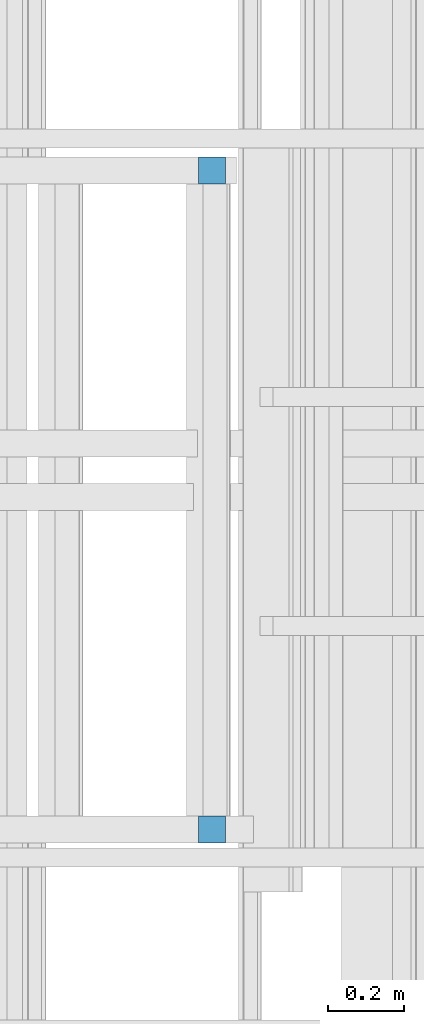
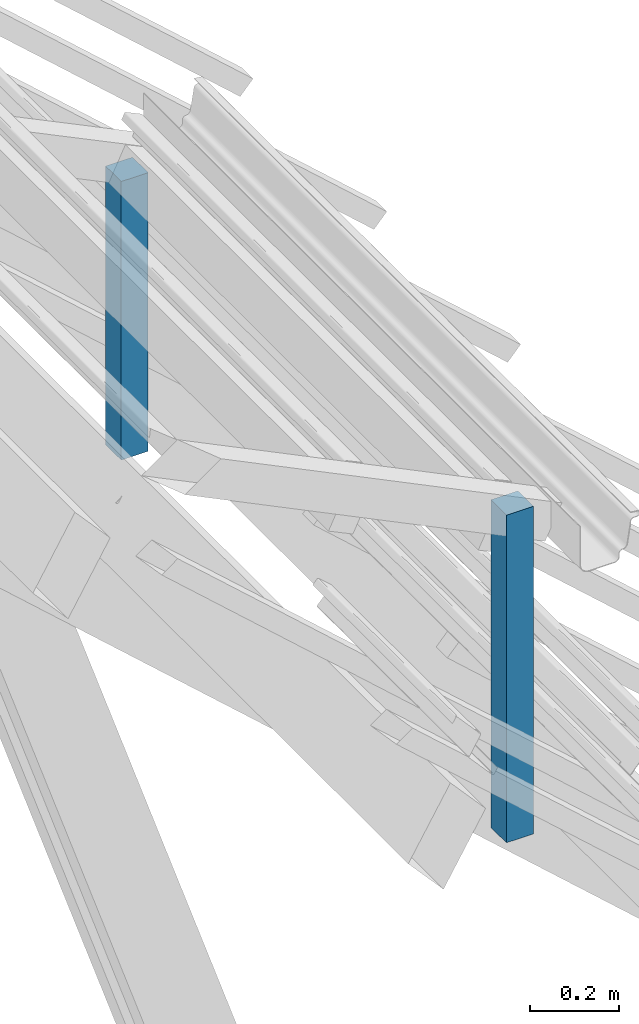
# One storey, part 17 of 18: 2 beams.
"""IFC2X3 building model written with IfcOpenShell, lengths in centimetres."""

import ifcopenshell
import ifcopenshell.guid

model = None  # the IFC model being written
_history = None  # IfcOwnerHistory: only IFC2X3 demands one
_inside = {}  # id of a spatial element -> (the spatial element, [elements in it])
_under = {}  # id of a project, library or spatial element -> (it, [spatial elements below it])
_declared = {}  # id of a project -> (the project, [libraries it declares])
_typed = {}  # id of a type object -> (the type object, [elements of that type])
_made_of = {}  # id of a material, layer set ... -> (it, [elements and type objects made of it])


def new_model(schema):
    """Start an empty IFC model of exactly this schema.

    Asked for "IFC4X3", IfcOpenShell would pick the latest addendum, in which some entities
    have other attributes; the version numbers below select the first issue.
    IFC2X3 requires an IfcOwnerHistory on every rooted entity: one is made here for all.
    """
    global model, _history
    if schema == "IFC4X3":
        model = ifcopenshell.file(schema_version=(4, 3, 0, 0))
    else:
        model = ifcopenshell.file(schema=schema)
    _inside.clear()
    _under.clear()
    _declared.clear()
    _typed.clear()
    _made_of.clear()
    _history = None
    if model.schema == "IFC2X3":
        org = make("IfcOrganization", Name="unknown")
        user = make(
            "IfcPersonAndOrganization",
            ThePerson=make("IfcPerson", FamilyName="unknown"),
            TheOrganization=org,
        )
        app = make(
            "IfcApplication",
            ApplicationDeveloper=org,
            Version="unknown",
            ApplicationFullName="unknown",
            ApplicationIdentifier="unknown",
        )
        _history = make(
            "IfcOwnerHistory",
            OwningUser=user,
            OwningApplication=app,
            ChangeAction="ADDED",
            CreationDate=0,
        )
    return model


def make(cls, **values):
    """One entity of the class cls with the attributes given. An attribute that is None is left unset."""
    return model.create_entity(
        cls, **{name: value for name, value in values.items() if value is not None}
    )


def entity(cls, *values):
    """Any entity or typed value of the class cls, its attributes in the order of the schema. None: left unset."""
    e = model.create_entity(cls)
    for i, value in enumerate(values):
        if value is not None:
            e[i] = value
    return e


def rooted(cls, **values):
    """An entity with a GlobalId (a new one), such as an element, a storey or a relation."""
    return make(cls, GlobalId=ifcopenshell.guid.new(), OwnerHistory=_history, **values)


def si_unit(unit_type, name, prefix=None):
    """IfcSIUnit, for example si_unit("LENGTHUNIT", "METRE", prefix="MILLI")."""
    return make("IfcSIUnit", UnitType=unit_type, Prefix=prefix, Name=name)


def converted_unit(unit_type, name, factor, base, dimensions=None, offset=None):
    """IfcConversionBasedUnit, such as the inch: factor (a typed value) times the base unit."""
    return make(
        "IfcConversionBasedUnit"
        if offset is None
        else "IfcConversionBasedUnitWithOffset",
        ConversionOffset=offset,
        Dimensions=None
        if dimensions is None
        else entity("IfcDimensionalExponents", *dimensions),
        UnitType=unit_type,
        Name=name,
        ConversionFactor=make(
            "IfcMeasureWithUnit", ValueComponent=factor, UnitComponent=base
        ),
    )


def assignment(units):
    """IfcUnitAssignment: the units of a project."""
    return None if units is None else make("IfcUnitAssignment", Units=units)


def point(xyz):
    """IfcCartesianPoint."""
    return None if xyz is None else make("IfcCartesianPoint", Coordinates=xyz)


def direction(xyz):
    """IfcDirection."""
    return None if xyz is None else make("IfcDirection", DirectionRatios=xyz)


def frame(location, z_axis=None, x_axis=None):
    """IfcAxis2Placement3D, a coordinate frame: its origin and axes. An axis left out is left unset."""
    return make(
        "IfcAxis2Placement3D",
        Location=point(location),
        Axis=direction(z_axis),
        RefDirection=direction(x_axis),
    )


def frame_2d(location, x_axis=None):
    """IfcAxis2Placement2D, a coordinate frame in the plane: its origin and x axis."""
    return make(
        "IfcAxis2Placement2D", Location=point(location), RefDirection=direction(x_axis)
    )


def origin():
    """The frame at (0, 0, 0) with its axes left unset."""
    return frame((0.0, 0.0, 0.0))


def place(relative_to, where):
    """IfcLocalPlacement: puts the frame where relative to a parent placement (None: the world)."""
    return make(
        "IfcLocalPlacement", PlacementRelTo=relative_to, RelativePlacement=where
    )


def context(
    kind, dimensions, precision=None, world=None, true_north=None, identifier=None
):
    """IfcGeometricRepresentationContext, for example the 3D "Model" context."""
    return make(
        "IfcGeometricRepresentationContext",
        ContextIdentifier=identifier,
        ContextType=kind,
        CoordinateSpaceDimension=dimensions,
        Precision=precision,
        WorldCoordinateSystem=world,
        TrueNorth=true_north,
    )


def subcontext(parent, identifier, kind, view, scale=None):
    """IfcGeometricRepresentationSubContext, for example "Body" below "Model"."""
    return make(
        "IfcGeometricRepresentationSubContext",
        ContextIdentifier=identifier,
        ContextType=kind,
        ParentContext=parent,
        TargetScale=scale,
        TargetView=view,
    )


def project(units=None, contexts=None):
    """IfcProject with its units and contexts."""
    return rooted(
        "IfcProject",
        Name="project",
        RepresentationContexts=contexts,
        UnitsInContext=assignment(units),
    )


def spatial(cls, under=None, at=None, **own):
    """A site, building, storey or space (cls), placed at a placement, below another one or the project."""
    s = rooted(cls, ObjectPlacement=at, **own)
    if under is not None:
        _under.setdefault(under.id(), (under, []))[1].append(s)
    return s


def profile(cls, at=None, kind="AREA", **sizes):
    """A parametric profile (cls). Its sizes go by their IFC names, for example OverallWidth=200.0."""
    return make(cls, ProfileType=kind, Position=at, **sizes)


def rectangle(**sizes):
    """IfcRectangleProfileDef."""
    return profile("IfcRectangleProfileDef", **sizes)


def extrude(swept, where, along, depth):
    """IfcExtrudedAreaSolid: the profile swept, set in the frame where, extruded along a direction by depth."""
    return make(
        "IfcExtrudedAreaSolid",
        SweptArea=swept,
        Position=where,
        ExtrudedDirection=direction(along),
        Depth=depth,
    )


def shape(context_of_items, identifier, shape_type, items):
    """IfcShapeRepresentation: the items that make up one representation, for example the "Body"."""
    return make(
        "IfcShapeRepresentation",
        ContextOfItems=context_of_items,
        RepresentationIdentifier=identifier,
        RepresentationType=shape_type,
        Items=items,
    )


def material(Name=None, Category=None):
    """IfcMaterial."""
    return make("IfcMaterial", Name=Name, Category=Category)


def made_of(thing, what):
    """Note that an element or type object is made of a material, layer set ...; save() writes the relation."""
    if what is not None:
        _made_of.setdefault(what.id(), (what, []))[1].append(thing)
    return thing


def type_object(cls, material=None, **own):
    """A type object (cls), such as IfcWallType, which elements share."""
    return made_of(rooted(cls, **own), material)


def element(
    cls,
    number,
    at=None,
    inside=None,
    cuts=None,
    type_object=None,
    material=None,
    context=None,
    identifier="Body",
    shape_type=None,
    held_by="IfcProductDefinitionShape",
    body=None,
    shapes=None,
    **own,
):
    """One element of the class cls, such as IfcWall. Its Tag is "e" and its number.

    at: its placement. inside: the storey or other place that contains it. cuts: it is an
    opening in that element (IfcRelVoidsElement). A single representation is given by context,
    identifier, shape_type and body (its items); several are given by shapes. held_by: the class
    of the entity that holds the representations. save() writes the other relations.
    """
    e = rooted(cls, Tag="e%d" % number, ObjectPlacement=at, **own)
    if body is not None:
        shapes = [shape(context, identifier, shape_type, body)]
    if shapes is not None:
        e.Representation = make(held_by, Representations=shapes)
    if inside is not None:
        _inside.setdefault(inside.id(), (inside, []))[1].append(e)
    if cuts is not None:
        rooted(
            "IfcRelVoidsElement", RelatingBuildingElement=cuts, RelatedOpeningElement=e
        )
    if type_object is not None:
        _typed.setdefault(type_object.id(), (type_object, []))[1].append(e)
    return made_of(e, material)


def aggregate(whole, parts):
    """IfcRelAggregates: a whole, such as a stair, and the parts it consists of."""
    return rooted("IfcRelAggregates", RelatingObject=whole, RelatedObjects=parts)


def save(model, path):
    """Write the relations noted so far, then the file.

    IfcRelAggregates (storeys below a building ...), IfcRelContainedInSpatialStructure (elements
    in a storey), IfcRelDefinesByType, IfcRelAssociatesMaterial and IfcRelDeclares: one each for
    every whole, place, type object, material and project.
    """
    for whole, parts in _under.values():
        aggregate(whole, parts)
    for where, things in _inside.values():
        rooted(
            "IfcRelContainedInSpatialStructure",
            RelatedElements=things,
            RelatingStructure=where,
        )
    for kind, things in _typed.values():
        rooted("IfcRelDefinesByType", RelatedObjects=things, RelatingType=kind)
    for what, things in _made_of.values():
        rooted("IfcRelAssociatesMaterial", RelatedObjects=things, RelatingMaterial=what)
    for by, libraries in _declared.values():
        rooted("IfcRelDeclares", RelatingContext=by, RelatedDefinitions=libraries)
    model.write(path)


model = new_model("IFC2X3")

# Units and contexts
model_context = context("Model", 3, precision=0.001, world=frame((0.0, 0.0, 13090.0)), true_north=direction((6.123233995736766e-17, 1.0)))
body_context = subcontext(model_context, "Body", "Model", "MODEL_VIEW")
ifc_project = project(units=[si_unit("LENGTHUNIT", "METRE", prefix="CENTI"), si_unit("AREAUNIT", "SQUARE_METRE"), si_unit("VOLUMEUNIT", "CUBIC_METRE"), converted_unit("PLANEANGLEUNIT", "DEGREE", entity("IfcPlaneAngleMeasure", 0.017453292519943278), si_unit("PLANEANGLEUNIT", "RADIAN"), dimensions=[0, 0, 0, 0, 0, 0, 0])], contexts=[model_context])

# Site, building, storey
site_placement = place(None, origin())
site = spatial("IfcSite", under=ifc_project, at=site_placement, Name="Default", CompositionType="ELEMENT")
building_placement = place(site_placement, origin())
building = spatial("IfcBuilding", under=site, at=building_placement, Name="e 39 logements et 22 maisons relais", CompositionType="ELEMENT")
storey_placement = place(building_placement, frame((0.0, 0.0, 610.0)))
storey = spatial("IfcBuildingStorey", under=building, at=storey_placement, Name="R+2", CompositionType="ELEMENT", Elevation=609.9999999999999)

# Beams
ifc_material = material(Name="Bois - Bois de construction de dimensions courantes")
beam_type = type_object("IfcBeamType", Name="Poutre - Bois de construction de dimensions courantes:70 70", PredefinedType="BEAM")
beam_1_placement = place(storey_placement, frame((911.8214779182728, 55.702096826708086, -5.2990518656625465), z_axis=(1.0, 0.0, 0.0), x_axis=(0.0, 0.0, 1.0)))
element("IfcBeam", 1, at=beam_1_placement, inside=storey, type_object=beam_type, material=ifc_material, Name="Poutre - Bois de construction de dimensions courantes:70 70", ObjectType="Poutre - Bois de construction de dimensions courantes:70 70", context=body_context, shape_type="SweptSolid", body=[
    extrude(rectangle(XDim=6.999999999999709, YDim=7.00000000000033, at=frame_2d((-1.0835776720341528e-13, 3.3306690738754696e-15), x_axis=(1.0, 0.0))), frame((-88.07774093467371, 0.0, 85.49999999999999), z_axis=(1.0, 0.0, 0.0), x_axis=(0.0, 0.0, -1.0)), (0.0, 0.0, 1.0), 76.27527014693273),
])
beam_2_placement = place(storey_placement, frame((911.8214779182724, -117.108947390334, -5.2990518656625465), z_axis=(1.0, 0.0, 0.0), x_axis=(0.0, 0.0, 1.0)))
element("IfcBeam", 2, at=beam_2_placement, inside=storey, type_object=beam_type, material=ifc_material, Name="Poutre - Bois de construction de dimensions courantes:70 70", ObjectType="Poutre - Bois de construction de dimensions courantes:70 70", context=body_context, shape_type="SweptSolid", body=[
    extrude(rectangle(XDim=6.999999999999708, YDim=7.000000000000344, at=frame_2d((1.0835776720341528e-13, 6.8833827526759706e-15), x_axis=(1.0, 0.0))), frame((-88.07774093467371, 0.0, 85.50000000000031), z_axis=(1.0, 0.0, 0.0), x_axis=(0.0, 0.0, -1.0)), (0.0, 0.0, 1.0), 89.69875771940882),
])

save(model, "model.ifc")
